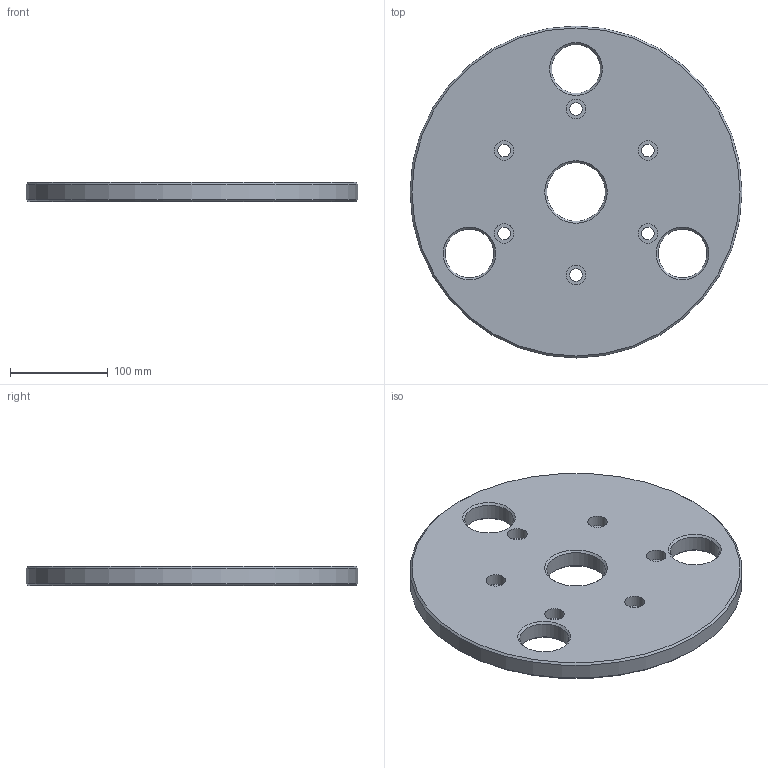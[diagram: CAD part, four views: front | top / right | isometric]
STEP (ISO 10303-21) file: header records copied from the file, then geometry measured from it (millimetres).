
FILE_DESCRIPTION(/* description */ (''),/* implementation_level */ '2;1');
FILE_NAME(/* name */ 'C:\Users\jbart\OneDrive\Plocha\Nová složka\3D modely - stp\Unášeč B-2.stp',/* time_stamp */ '2025-05-15T16:52:22+02:00',/* author */ ('jbart'),/* organization */ (''),/* preprocessor_version */ 'ST-DEVELOPER v18.1',/* originating_system */ 'Autodesk Inventor 2022',/* authorisation */ '');
FILE_SCHEMA (('AUTOMOTIVE_DESIGN { 1 0 10303 214 3 1 1 }'));
Length unit declared in the file: millimetre
Products named in the file (1): Unášeč B-2
Bounding box: 340 x 340 x 20 mm (x, y, z)
Volume: 1605529.8 mm3; surface area: 199579.8 mm2
Topology: 1 solids, 1 shells, 35 faces, 73 edges, 46 vertices
Faces by surface type: cylinder 17, cone 10, plane 8
Full cylindrical faces by diameter (mm): 13 x6, 20 x6, 50 x3, 60 x1, 340 x1
Entity records: 1028 total; most frequent: DIRECTION 191, CARTESIAN_POINT 155, ORIENTED_EDGE 146, AXIS2_PLACEMENT_3D 82, EDGE_CURVE 73, EDGE_LOOP 61, CIRCLE 46, VERTEX_POINT 46
